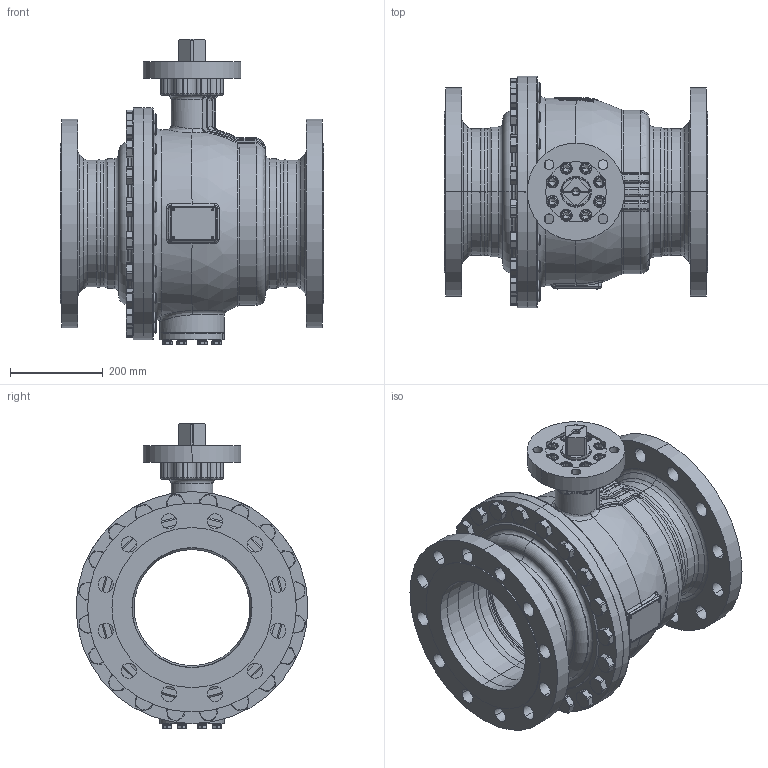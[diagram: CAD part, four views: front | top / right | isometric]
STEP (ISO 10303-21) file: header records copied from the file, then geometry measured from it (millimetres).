
FILE_DESCRIPTION((''),'2;1');
FILE_NAME('KHI-F_250_PN040-F16-4_SW0001','2026-02-05T13:42:43',('fischerkl'),('KLINGER'),'CREO PARAMETRIC BY PTC INC, 2023014','CREO PARAMETRIC BY PTC INC, 2023014','');
FILE_SCHEMA(('CONFIG_CONTROL_DESIGN'));
Products named in the file (1): KHI-F_250_PN040-F16-4_SW0001
Bounding box: 568 x 500 x 657.8 mm (x, y, z)
Volume: 25777592.1 mm3; surface area: 3628416.4 mm2
Topology: 1 solids, 4 shells, 3391 faces, 8645 edges, 5394 vertices
Faces by surface type: plane 1726, cylinder 804, cone 414, torus 308, bspline 97, sphere 42
Entity records: 139518 total; most frequent: CARTESIAN_POINT 58471, ORIENTED_EDGE 17214, DIRECTION 16698, EDGE_CURVE 8607, AXIS2_PLACEMENT_3D 6338, VERTEX_POINT 5394, VECTOR 4022, LINE 4022
